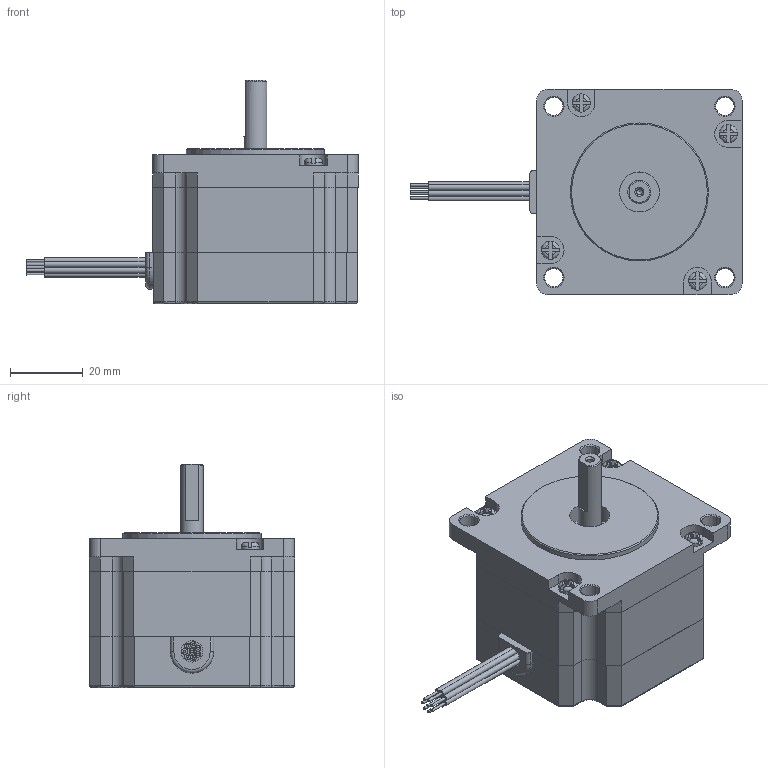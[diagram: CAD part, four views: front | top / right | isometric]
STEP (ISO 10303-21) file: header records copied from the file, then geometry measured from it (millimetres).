
FILE_DESCRIPTION(/* description */ (''),/* implementation_level */ '2;1');
FILE_NAME(/* name */ 'C:\Users\Admin\Desktop\MOTOR DE PASSO EDILSON\MOTOR HT23394.step',/* time_stamp */ '2020-07-06T16:47:47-03:00',/* author */ ('Admin'),/* organization */ (''),/* preprocessor_version */ 'ST-DEVELOPER v16.1',/* originating_system */ 'Autodesk Inventor 2016',/* authorisation */ '');
FILE_SCHEMA (('AUTOMOTIVE_DESIGN { 1 0 10303 214 3 1 1 }'));
Length unit declared in the file: millimetre
Products named in the file (1): MOTOR HT23394
Bounding box: 91.4 x 56.5 x 61.5 mm (x, y, z)
Volume: 118347.1 mm3; surface area: 17990.3 mm2
Topology: 1 solids, 1 shells, 498 faces, 1322 edges, 868 vertices
Faces by surface type: plane 298, bspline 84, cylinder 78, torus 21, cone 17
Full cylindrical faces by diameter (mm): 0.7 x8, 1.567 x1, 1.6 x8, 2.013 x5, 5 x8, 5.935 x1, 6.35 x1, 10.5 x1, 11 x1, 38 x1
Entity records: 16091 total; most frequent: CARTESIAN_POINT 4242, ORIENTED_EDGE 2512, DIRECTION 2085, EDGE_CURVE 1256, LINE 853, VECTOR 853, VERTEX_POINT 853, AXIS2_PLACEMENT_3D 616
